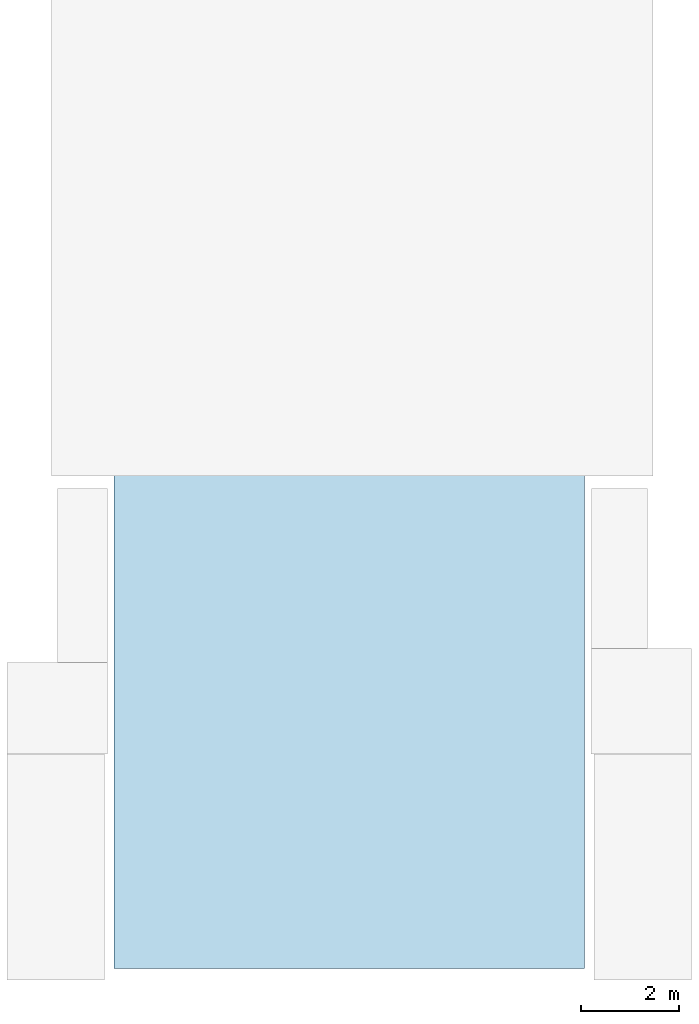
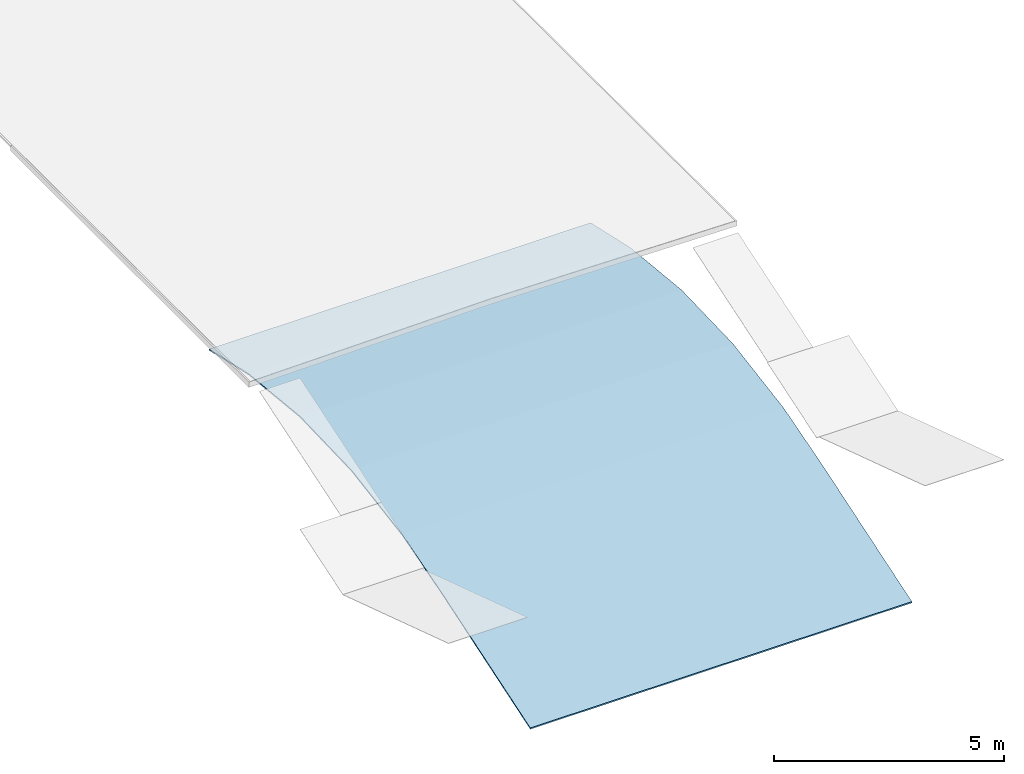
# One storey, part 2 of 3: 1 roof.
"""IFC2X3 building model written with IfcOpenShell, lengths in millimetres."""

from ifc_helpers import new_model, entity, si_unit, converted_unit, derived_unit, direction, frame, origin, place, context, subcontext, project, spatial, faceted_brep, material, layer, layer_set, element, save


model = new_model("IFC2X3")

# Units and contexts
model_context = context("Model", 3, precision=0.01, world=origin(), true_north=direction((6.12303176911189e-17, 1.0)))
body_context = subcontext(model_context, "Body", "Model", "MODEL_VIEW")
ifc_project = project(units=[si_unit("LENGTHUNIT", "METRE", prefix="MILLI"), si_unit("AREAUNIT", "SQUARE_METRE"), si_unit("VOLUMEUNIT", "CUBIC_METRE"), converted_unit("PLANEANGLEUNIT", "DEGREE", entity("IfcRatioMeasure", 0.0174532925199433), si_unit("PLANEANGLEUNIT", "RADIAN"), dimensions=[0, 0, 0, 0, 0, 0, 0]), si_unit("MASSUNIT", "GRAM", prefix="KILO"), derived_unit("MASSDENSITYUNIT", [(si_unit("MASSUNIT", "GRAM", prefix="KILO"), 1), (si_unit("LENGTHUNIT", "METRE"), -3)]), derived_unit("MOMENTOFINERTIAUNIT", [(si_unit("LENGTHUNIT", "METRE"), 4)]), si_unit("TIMEUNIT", "SECOND"), si_unit("FREQUENCYUNIT", "HERTZ"), si_unit("THERMODYNAMICTEMPERATUREUNIT", "DEGREE_CELSIUS"), derived_unit("THERMALTRANSMITTANCEUNIT", [(si_unit("MASSUNIT", "GRAM", prefix="KILO"), 1), (si_unit("THERMODYNAMICTEMPERATUREUNIT", "KELVIN"), -1), (si_unit("TIMEUNIT", "SECOND"), -3)]), derived_unit("VOLUMETRICFLOWRATEUNIT", [(si_unit("LENGTHUNIT", "METRE"), 3), (si_unit("TIMEUNIT", "SECOND"), -1)]), si_unit("ELECTRICCURRENTUNIT", "AMPERE"), si_unit("ELECTRICVOLTAGEUNIT", "VOLT"), si_unit("POWERUNIT", "WATT"), si_unit("FORCEUNIT", "NEWTON", prefix="KILO"), si_unit("ILLUMINANCEUNIT", "LUX"), si_unit("LUMINOUSFLUXUNIT", "LUMEN"), si_unit("LUMINOUSINTENSITYUNIT", "CANDELA"), derived_unit("USERDEFINED", [(si_unit("MASSUNIT", "GRAM", prefix="KILO"), -1), (si_unit("LENGTHUNIT", "METRE"), -2), (si_unit("TIMEUNIT", "SECOND"), 3), (si_unit("LUMINOUSFLUXUNIT", "LUMEN"), 1)]), derived_unit("LINEARVELOCITYUNIT", [(si_unit("LENGTHUNIT", "METRE"), 1), (si_unit("TIMEUNIT", "SECOND"), -1)]), si_unit("PRESSUREUNIT", "PASCAL"), derived_unit("USERDEFINED", [(si_unit("LENGTHUNIT", "METRE"), -2), (si_unit("MASSUNIT", "GRAM", prefix="KILO"), 1), (si_unit("TIMEUNIT", "SECOND"), -2)]), derived_unit("LINEARFORCEUNIT", [(si_unit("MASSUNIT", "GRAM", prefix="KILO"), 1), (si_unit("LENGTHUNIT", "METRE"), 1), (si_unit("TIMEUNIT", "SECOND"), -2), (si_unit("LENGTHUNIT", "METRE"), -1)]), derived_unit("PLANARFORCEUNIT", [(si_unit("MASSUNIT", "GRAM", prefix="KILO"), 1), (si_unit("LENGTHUNIT", "METRE"), 1), (si_unit("TIMEUNIT", "SECOND"), -2), (si_unit("LENGTHUNIT", "METRE"), -2)])], contexts=[model_context])

# Site, building, storey
site_placement = place(None, origin())
site = spatial("IfcSite", under=ifc_project, at=site_placement, Name="Default", CompositionType="ELEMENT")
building_placement = place(site_placement, origin())
building = spatial("IfcBuilding", under=site, at=building_placement, Name="-", CompositionType="ELEMENT")
storey_placement = place(building_placement, frame((0.0, 0.0, 18000.0)))
storey = spatial("IfcBuildingStorey", under=building, at=storey_placement, Name="06 zesde verdieping", CompositionType="ELEMENT", Elevation=18000.0000000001)

# Roof
ifc_material_1 = material(Name="NLRS_i4_hout_underlayment")
ifc_layer_1 = layer(ifc_material_1, 18.0)
ifc_material_2 = material(Name="NLRS_i1_hardboard_gen")
ifc_layer_2 = layer(ifc_material_2, 15.0)
ifc_layer_set = layer_set([ifc_layer_1, ifc_layer_2], Name="Basic Roof:27_Dakelement Derako lineair base line plafond")
roof_placement = place(storey_placement, frame((29950.497615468, 411.60293142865, -15236.0758431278)))
element("IfcRoof", 1, at=roof_placement, inside=storey, material=ifc_layer_set, Name="Basic Roof:27_Dakelement Derako lineair base line plafond", ObjectType="Basic Roof:27_Dakelement Derako lineair base line plafond", ShapeType="NOTDEFINED", context=body_context, shape_type="Brep", body=[
    faceted_brep([(9560.78192121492, 7763.36556188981, 2158.26842217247), (9560.78192121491, 6665.48353905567, 1975.00423192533), (9560.78192121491, 5567.60151622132, 1791.74004167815), (9560.78192121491, 4712.83926269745, 1541.30542071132), (9560.78192121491, 3858.07700917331, 1290.87079974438), (9560.7819212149, 0.0, 34.7051333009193), (9560.7819212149, 0.0, 0.0), (9560.78192121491, 3868.66106429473, 1259.61176838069), (9560.78192121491, 4722.55002688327, 1509.76549559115), (9560.78192121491, 5576.4389894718, 1759.91922280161), (9560.78192121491, 6673.21566444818, 1942.8414769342), (9560.78192121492, 7769.99233942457, 2125.76373106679), (9560.78192121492, 8881.34079210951, 2161.60006101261), (9560.78192121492, 9992.68924479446, 2197.43639095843), (9560.78192121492, 11098.9721477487, 2085.55357520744), (9560.78192121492, 12205.2550507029, 1973.67075945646), (9560.78192121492, 13073.4861848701, 1779.04818797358), (9560.78192121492, 13941.7173190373, 1584.42561649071), (9560.78192121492, 13941.7173190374, 1618.69903381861), (9560.78192121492, 13072.4935370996, 1813.08531507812), (9560.78192121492, 12203.2697551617, 2007.47159633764), (9560.78192121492, 11095.8025274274, 2119.0378949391), (9560.78192121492, 9988.33529969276, 2230.60419354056), (9560.78192121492, 8875.85043079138, 2194.43630785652), (0.0, 3868.66106429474, 1259.61176838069), (0.0, 0.0, 0.0), (0.0, 0.0, 34.7051333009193), (0.0, 3858.07700917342, 1290.87079974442), (0.0, 5041.87816096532, 1637.70969152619), (0.0, 5567.60151622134, 1791.74004167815), (0.0, 6665.48353905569, 1975.00423192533), (0.0, 7763.36556188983, 2158.26842217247), (0.0, 8875.85043079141, 2194.43630785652), (0.0, 9988.33529969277, 2230.60419354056), (0.0, 11095.8025274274, 2119.0378949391), (0.0, 12203.2697551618, 2007.47159633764), (0.0, 13072.4935370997, 1813.08531507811), (0.0, 13941.7173190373, 1618.69903381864), (0.0, 13941.7173190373, 1584.42561649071), (0.0, 12740.3938904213, 1853.71411083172), (0.0, 12205.2550507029, 1973.67075945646), (0.0, 11098.9721477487, 2085.55357520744), (0.0, 9992.68924479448, 2197.43639095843), (0.0, 8881.34079210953, 2161.60006101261), (0.0, 7769.99233942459, 2125.76373106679), (0.0, 6673.2156644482, 1942.8414769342), (0.0, 5576.43898947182, 1759.91922280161), (0.0, 4722.55002688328, 1509.76549559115)], [[[0, 1, 2, 3, 4, 5, 6, 7, 8, 9, 10, 11, 12, 13, 14, 15, 16, 17, 18, 19, 20, 21, 22, 23]], [[24, 25, 26, 27, 28, 29, 30, 31, 32, 33, 34, 35, 36, 37, 38, 39, 40, 41, 42, 43, 44, 45, 46, 47]], [[5, 4, 27, 26]], [[6, 5, 26, 25]], [[7, 6, 25, 24]], [[37, 36, 35, 20, 19, 18]], [[27, 4, 3, 2, 29, 28]], [[22, 21, 20, 35, 34, 33]], [[0, 23, 22, 33, 32, 31]], [[31, 30, 29, 2, 1, 0]], [[10, 9, 46, 45, 44, 11]], [[9, 8, 7, 24, 47, 46]], [[41, 40, 15, 14, 13, 42]], [[13, 12, 11, 44, 43, 42]], [[38, 17, 16, 15, 40, 39]], [[18, 17, 38, 37]]]),
])

save(model, "model.ifc")
